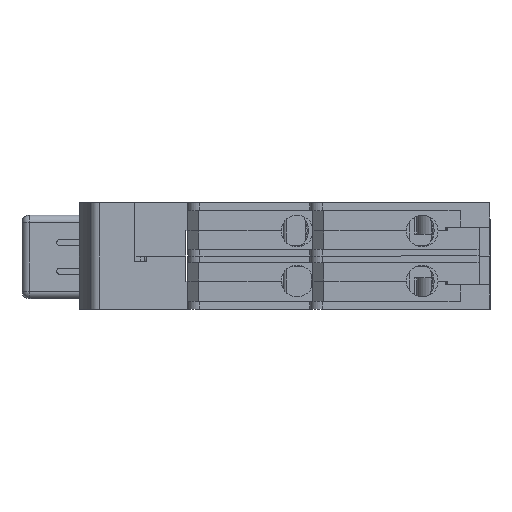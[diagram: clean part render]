
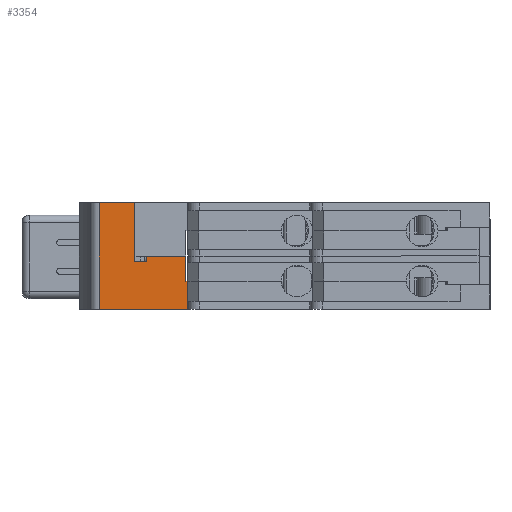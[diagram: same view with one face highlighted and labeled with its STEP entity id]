
A CAD part, left-side view. The second image highlights one B-rep face of the part: STEP entity #3354.
In plain terms, the highlighted planar face has unit normal (-1, 0, 0).
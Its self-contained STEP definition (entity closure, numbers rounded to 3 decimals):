
#3281 = EDGE_CURVE ( 'NONE', #111246, #131694, #127923, .T. ) ;
#3282 = ORIENTED_EDGE ( 'NONE', *, *, #3281, .F. ) ;
#3343 = ORIENTED_EDGE ( 'NONE', *, *, #111293, .F. ) ;
#3344 = ORIENTED_EDGE ( 'NONE', *, *, #3345, .F. ) ;
#3345 = EDGE_CURVE ( 'NONE', #103448, #111255, #128075, .T. ) ;
#3349 = ORIENTED_EDGE ( 'NONE', *, *, #131698, .T. ) ;
#3351 = ORIENTED_EDGE ( 'NONE', *, *, #3352, .T. ) ;
#3352 = EDGE_CURVE ( 'NONE', #102828, #131695, #128119, .T. ) ;
#3353 = ORIENTED_EDGE ( 'NONE', *, *, #102679, .F. ) ;
#3354 = ADVANCED_FACE ( 'NONE', ( #128114 ), #128099, .F. ) ;
#3355 = EDGE_LOOP ( 'NONE', ( #3353, #3351, #3349, #3282, #3343, #3344, #107147, #107378, #4210, #4208 ) ) ;
#4205 = EDGE_CURVE ( 'NONE', #102813, #4211, #115788, .T. ) ;
#4207 = EDGE_CURVE ( 'NONE', #4211, #107381, #115852, .T. ) ;
#4208 = ORIENTED_EDGE ( 'NONE', *, *, #4205, .F. ) ;
#4210 = ORIENTED_EDGE ( 'NONE', *, *, #4207, .F. ) ;
#4211 = VERTEX_POINT ( 'NONE', #115846 ) ;
#19840 = DIRECTION ( 'NONE',  ( 0., -1., 0. ) ) ;
#19841 = VECTOR ( 'NONE', #19840, 1000. ) ;
#19842 = CARTESIAN_POINT ( 'NONE',  ( -22.5, 37.49, 8.75 ) ) ;
#19843 = LINE ( 'NONE', #19842, #19841 ) ;
#20237 = CARTESIAN_POINT ( 'NONE',  ( -22.5, 30.79, 8.75 ) ) ;
#20313 = CARTESIAN_POINT ( 'NONE',  ( -22.5, 36.5, 8.75 ) ) ;
#22182 = CARTESIAN_POINT ( 'NONE',  ( -22.5, 22.3, 0. ) ) ;
#22222 = LINE ( 'NONE', #22279, #22278 ) ;
#22277 = DIRECTION ( 'NONE',  ( 0., -1., 0. ) ) ;
#22278 = VECTOR ( 'NONE', #22277, 1000. ) ;
#22279 = CARTESIAN_POINT ( 'NONE',  ( -22.5, 37.49, 0. ) ) ;
#22352 = CARTESIAN_POINT ( 'NONE',  ( -22.5, 28.79, 0. ) ) ;
#40713 = CARTESIAN_POINT ( 'NONE',  ( -22.5, 28.79, -0.9 ) ) ;
#40714 = DIRECTION ( 'NONE',  ( 0., 0., 1. ) ) ;
#40715 = VECTOR ( 'NONE', #40714, 1000. ) ;
#40716 = CARTESIAN_POINT ( 'NONE',  ( -22.5, 28.79, -0.9 ) ) ;
#40717 = LINE ( 'NONE', #40716, #40715 ) ;
#46367 = CARTESIAN_POINT ( 'NONE',  ( -22.5, 22.3, -4.1 ) ) ;
#46375 = CARTESIAN_POINT ( 'NONE',  ( -22.5, 22., -4.1 ) ) ;
#46426 = DIRECTION ( 'NONE',  ( 0., -1., 0. ) ) ;
#46427 = VECTOR ( 'NONE', #46426, 1000. ) ;
#46428 = CARTESIAN_POINT ( 'NONE',  ( -22.5, 22.3, -4.1 ) ) ;
#46430 = LINE ( 'NONE', #46428, #46427 ) ;
#68449 = CARTESIAN_POINT ( 'NONE',  ( -22.5, 36.5, -8.75 ) ) ;
#68450 = CARTESIAN_POINT ( 'NONE',  ( -22.5, 22., -8.75 ) ) ;
#68551 = DIRECTION ( 'NONE',  ( 0., -1., 0. ) ) ;
#68552 = VECTOR ( 'NONE', #68551, 1000. ) ;
#68553 = CARTESIAN_POINT ( 'NONE',  ( -22.5, 22., -8.75 ) ) ;
#68555 = LINE ( 'NONE', #68553, #68552 ) ;
#102679 = EDGE_CURVE ( 'NONE', #102828, #102813, #19843, .T. ) ;
#102813 = VERTEX_POINT ( 'NONE', #20237 ) ;
#102828 = VERTEX_POINT ( 'NONE', #20313 ) ;
#103448 = VERTEX_POINT ( 'NONE', #22182 ) ;
#103481 = EDGE_CURVE ( 'NONE', #103519, #103448, #22222, .T. ) ;
#103519 = VERTEX_POINT ( 'NONE', #22352 ) ;
#107147 = ORIENTED_EDGE ( 'NONE', *, *, #103481, .F. ) ;
#107378 = ORIENTED_EDGE ( 'NONE', *, *, #107380, .F. ) ;
#107380 = EDGE_CURVE ( 'NONE', #107381, #103519, #40717, .T. ) ;
#107381 = VERTEX_POINT ( 'NONE', #40713 ) ;
#111246 = VERTEX_POINT ( 'NONE', #46375 ) ;
#111255 = VERTEX_POINT ( 'NONE', #46367 ) ;
#111293 = EDGE_CURVE ( 'NONE', #111255, #111246, #46430, .T. ) ;
#115787 = CARTESIAN_POINT ( 'NONE',  ( -22.5, 30.79, 8.75 ) ) ;
#115788 = LINE ( 'NONE', #115787, #115898 ) ;
#115846 = CARTESIAN_POINT ( 'NONE',  ( -22.5, 30.79, -0.9 ) ) ;
#115848 = DIRECTION ( 'NONE',  ( 0., -1., 0. ) ) ;
#115850 = VECTOR ( 'NONE', #115848, 1000. ) ;
#115851 = CARTESIAN_POINT ( 'NONE',  ( -22.5, 30.79, -0.9 ) ) ;
#115852 = LINE ( 'NONE', #115851, #115850 ) ;
#115896 = DIRECTION ( 'NONE',  ( 0., 0., -1. ) ) ;
#115898 = VECTOR ( 'NONE', #115896, 1000. ) ;
#127920 = DIRECTION ( 'NONE',  ( 0., 0., -1. ) ) ;
#127921 = VECTOR ( 'NONE', #127920, 1000. ) ;
#127922 = CARTESIAN_POINT ( 'NONE',  ( -22.5, 22., -7.45 ) ) ;
#127923 = LINE ( 'NONE', #127922, #127921 ) ;
#128072 = DIRECTION ( 'NONE',  ( 0., 0., -1. ) ) ;
#128073 = VECTOR ( 'NONE', #128072, 1000. ) ;
#128074 = CARTESIAN_POINT ( 'NONE',  ( -22.5, 22.3, 0. ) ) ;
#128075 = LINE ( 'NONE', #128074, #128073 ) ;
#128097 = CARTESIAN_POINT ( 'NONE',  ( -22.5, 22., -7.45 ) ) ;
#128098 = AXIS2_PLACEMENT_3D ( 'NONE', #128097, #128156, #128155 ) ;
#128099 = PLANE ( 'NONE',  #128098 ) ;
#128114 = FACE_OUTER_BOUND ( 'NONE', #3355, .T. ) ;
#128115 = DIRECTION ( 'NONE',  ( 0., 0., -1. ) ) ;
#128116 = VECTOR ( 'NONE', #128115, 1000. ) ;
#128117 = CARTESIAN_POINT ( 'NONE',  ( -22.5, 36.5, -8.75 ) ) ;
#128119 = LINE ( 'NONE', #128117, #128116 ) ;
#128155 = DIRECTION ( 'NONE',  ( 0., 0., -1. ) ) ;
#128156 = DIRECTION ( 'NONE',  ( 1., 0., 0. ) ) ;
#131694 = VERTEX_POINT ( 'NONE', #68450 ) ;
#131695 = VERTEX_POINT ( 'NONE', #68449 ) ;
#131698 = EDGE_CURVE ( 'NONE', #131695, #131694, #68555, .T. ) ;
